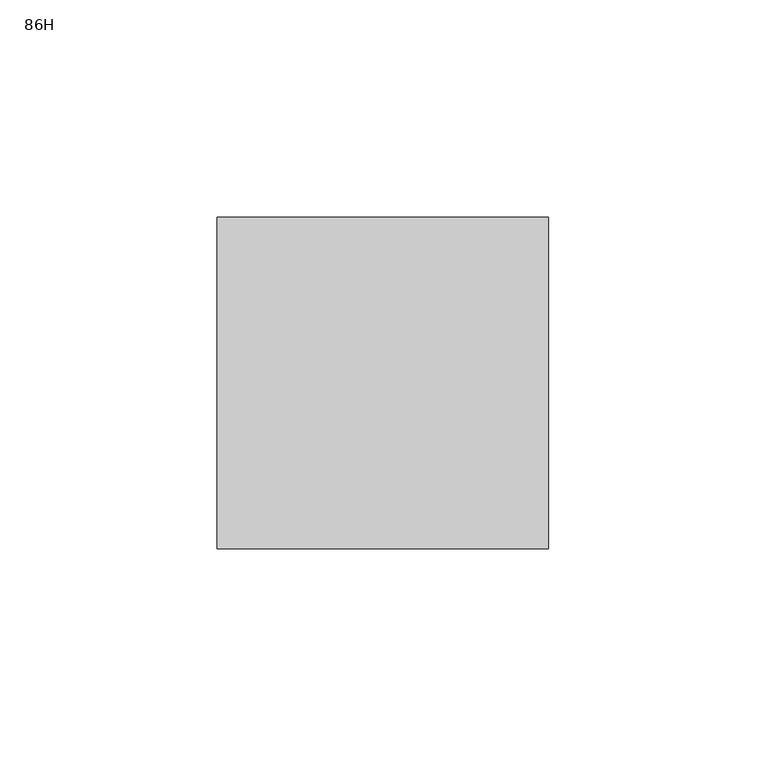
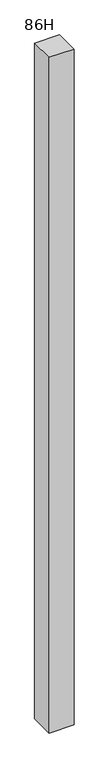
"""IFC4 building model written with IfcOpenShell, lengths in millimetres: furniture geometry, Steelcase - Montage - Junction - L Square - Same-Height : 86H."""

import ifcopenshell
import ifcopenshell.guid

model = None  # the IFC model being written
_history = None  # IfcOwnerHistory: only IFC2X3 demands one
_inside = {}  # id of a spatial element -> (the spatial element, [elements in it])
_under = {}  # id of a project, library or spatial element -> (it, [spatial elements below it])
_declared = {}  # id of a project -> (the project, [libraries it declares])
_typed = {}  # id of a type object -> (the type object, [elements of that type])
_made_of = {}  # id of a material, layer set ... -> (it, [elements and type objects made of it])


def new_model(schema):
    """Start an empty IFC model of exactly this schema.

    Asked for "IFC4X3", IfcOpenShell would pick the latest addendum, in which some entities
    have other attributes; the version numbers below select the first issue.
    IFC2X3 requires an IfcOwnerHistory on every rooted entity: one is made here for all.
    """
    global model, _history
    if schema == "IFC4X3":
        model = ifcopenshell.file(schema_version=(4, 3, 0, 0))
    else:
        model = ifcopenshell.file(schema=schema)
    _inside.clear()
    _under.clear()
    _declared.clear()
    _typed.clear()
    _made_of.clear()
    _history = None
    if model.schema == "IFC2X3":
        org = make("IfcOrganization", Name="unknown")
        user = make(
            "IfcPersonAndOrganization",
            ThePerson=make("IfcPerson", FamilyName="unknown"),
            TheOrganization=org,
        )
        app = make(
            "IfcApplication",
            ApplicationDeveloper=org,
            Version="unknown",
            ApplicationFullName="unknown",
            ApplicationIdentifier="unknown",
        )
        _history = make(
            "IfcOwnerHistory",
            OwningUser=user,
            OwningApplication=app,
            ChangeAction="ADDED",
            CreationDate=0,
        )
    return model


def make(cls, **values):
    """One entity of the class cls with the attributes given. An attribute that is None is left unset."""
    return model.create_entity(
        cls, **{name: value for name, value in values.items() if value is not None}
    )


def rooted(cls, **values):
    """An entity with a GlobalId (a new one), such as an element, a storey or a relation."""
    return make(cls, GlobalId=ifcopenshell.guid.new(), OwnerHistory=_history, **values)


def si_unit(unit_type, name, prefix=None):
    """IfcSIUnit, for example si_unit("LENGTHUNIT", "METRE", prefix="MILLI")."""
    return make("IfcSIUnit", UnitType=unit_type, Prefix=prefix, Name=name)


def assignment(units):
    """IfcUnitAssignment: the units of a project."""
    return None if units is None else make("IfcUnitAssignment", Units=units)


def point(xyz):
    """IfcCartesianPoint."""
    return None if xyz is None else make("IfcCartesianPoint", Coordinates=xyz)


def direction(xyz):
    """IfcDirection."""
    return None if xyz is None else make("IfcDirection", DirectionRatios=xyz)


def frame(location, z_axis=None, x_axis=None):
    """IfcAxis2Placement3D, a coordinate frame: its origin and axes. An axis left out is left unset."""
    return make(
        "IfcAxis2Placement3D",
        Location=point(location),
        Axis=direction(z_axis),
        RefDirection=direction(x_axis),
    )


def origin():
    """The frame at (0, 0, 0) with its axes left unset."""
    return frame((0.0, 0.0, 0.0))


def place(relative_to, where):
    """IfcLocalPlacement: puts the frame where relative to a parent placement (None: the world)."""
    return make(
        "IfcLocalPlacement", PlacementRelTo=relative_to, RelativePlacement=where
    )


def context(
    kind, dimensions, precision=None, world=None, true_north=None, identifier=None
):
    """IfcGeometricRepresentationContext, for example the 3D "Model" context."""
    return make(
        "IfcGeometricRepresentationContext",
        ContextIdentifier=identifier,
        ContextType=kind,
        CoordinateSpaceDimension=dimensions,
        Precision=precision,
        WorldCoordinateSystem=world,
        TrueNorth=true_north,
    )


def project(units=None, contexts=None):
    """IfcProject with its units and contexts."""
    return rooted(
        "IfcProject",
        Name="project",
        RepresentationContexts=contexts,
        UnitsInContext=assignment(units),
    )


def spatial(cls, under=None, at=None, **own):
    """A site, building, storey or space (cls), placed at a placement, below another one or the project."""
    s = rooted(cls, ObjectPlacement=at, **own)
    if under is not None:
        _under.setdefault(under.id(), (under, []))[1].append(s)
    return s


def polyline(points):
    """IfcPolyline through the points."""
    return make("IfcPolyline", Points=[point(p) for p in points])


def outline(outer, holes=None, kind="AREA"):
    """IfcArbitraryClosedProfileDef: a profile drawn as a closed curve; with holes, ...WithVoids."""
    if holes is None:
        return make("IfcArbitraryClosedProfileDef", ProfileType=kind, OuterCurve=outer)
    return make(
        "IfcArbitraryProfileDefWithVoids",
        ProfileType=kind,
        OuterCurve=outer,
        InnerCurves=holes,
    )


def extrude(swept, where, along, depth):
    """IfcExtrudedAreaSolid: the profile swept, set in the frame where, extruded along a direction by depth."""
    return make(
        "IfcExtrudedAreaSolid",
        SweptArea=swept,
        Position=where,
        ExtrudedDirection=direction(along),
        Depth=depth,
    )


def shape(context_of_items, identifier, shape_type, items):
    """IfcShapeRepresentation: the items that make up one representation, for example the "Body"."""
    return make(
        "IfcShapeRepresentation",
        ContextOfItems=context_of_items,
        RepresentationIdentifier=identifier,
        RepresentationType=shape_type,
        Items=items,
    )


def source(mapping_origin, context_of_items, identifier, shape_type, items):
    """IfcRepresentationMap: a shape defined once, which mapped items show again and again."""
    return make(
        "IfcRepresentationMap",
        MappingOrigin=mapping_origin,
        MappedRepresentation=shape(context_of_items, identifier, shape_type, items),
    )


def transform(
    local_origin,
    x_axis=None,
    y_axis=None,
    z_axis=None,
    scale=None,
    scale2=None,
    scale3=None,
    uniform=True,
):
    """IfcCartesianTransformationOperator3D, or its non-uniform kind. x_axis, y_axis, z_axis: its Axis1, 2, 3."""
    if uniform:
        return make(
            "IfcCartesianTransformationOperator3D",
            Axis1=direction(x_axis),
            Axis2=direction(y_axis),
            LocalOrigin=point(local_origin),
            Scale=scale,
            Axis3=direction(z_axis),
        )
    return make(
        "IfcCartesianTransformationOperator3DnonUniform",
        Axis1=direction(x_axis),
        Axis2=direction(y_axis),
        LocalOrigin=point(local_origin),
        Scale=scale,
        Axis3=direction(z_axis),
        Scale2=scale2,
        Scale3=scale3,
    )


def mapped(mapping_source, mapping_target):
    """IfcMappedItem: shows the shape of a source again, moved by a transform."""
    return make(
        "IfcMappedItem", MappingSource=mapping_source, MappingTarget=mapping_target
    )


def made_of(thing, what):
    """Note that an element or type object is made of a material, layer set ...; save() writes the relation."""
    if what is not None:
        _made_of.setdefault(what.id(), (what, []))[1].append(thing)
    return thing


def element(
    cls,
    number,
    at=None,
    inside=None,
    cuts=None,
    type_object=None,
    material=None,
    context=None,
    identifier="Body",
    shape_type=None,
    held_by="IfcProductDefinitionShape",
    body=None,
    shapes=None,
    **own,
):
    """One element of the class cls, such as IfcWall. Its Tag is "e" and its number.

    at: its placement. inside: the storey or other place that contains it. cuts: it is an
    opening in that element (IfcRelVoidsElement). A single representation is given by context,
    identifier, shape_type and body (its items); several are given by shapes. held_by: the class
    of the entity that holds the representations. save() writes the other relations.
    """
    e = rooted(cls, Tag="e%d" % number, ObjectPlacement=at, **own)
    if body is not None:
        shapes = [shape(context, identifier, shape_type, body)]
    if shapes is not None:
        e.Representation = make(held_by, Representations=shapes)
    if inside is not None:
        _inside.setdefault(inside.id(), (inside, []))[1].append(e)
    if cuts is not None:
        rooted(
            "IfcRelVoidsElement", RelatingBuildingElement=cuts, RelatedOpeningElement=e
        )
    if type_object is not None:
        _typed.setdefault(type_object.id(), (type_object, []))[1].append(e)
    return made_of(e, material)


def aggregate(whole, parts):
    """IfcRelAggregates: a whole, such as a stair, and the parts it consists of."""
    return rooted("IfcRelAggregates", RelatingObject=whole, RelatedObjects=parts)


def save(model, path):
    """Write the relations noted so far, then the file.

    IfcRelAggregates (storeys below a building ...), IfcRelContainedInSpatialStructure (elements
    in a storey), IfcRelDefinesByType, IfcRelAssociatesMaterial and IfcRelDeclares: one each for
    every whole, place, type object, material and project.
    """
    for whole, parts in _under.values():
        aggregate(whole, parts)
    for where, things in _inside.values():
        rooted(
            "IfcRelContainedInSpatialStructure",
            RelatedElements=things,
            RelatingStructure=where,
        )
    for kind, things in _typed.values():
        rooted("IfcRelDefinesByType", RelatedObjects=things, RelatingType=kind)
    for what, things in _made_of.values():
        rooted("IfcRelAssociatesMaterial", RelatedObjects=things, RelatingMaterial=what)
    for by, libraries in _declared.values():
        rooted("IfcRelDeclares", RelatingContext=by, RelatedDefinitions=libraries)
    model.write(path)


def furniture_86h_5dbdb53e(model_context):
    return source(origin(), model_context, "Body", "SweptSolid", [
        extrude(outline(polyline([(533.4, -38.1000015), (457.2, -38.1000015), (457.2, 38.1000015), (533.4, 38.1000015), (533.4, -38.1000015)])), frame((0.0, 0.0, 4.064), z_axis=(0.0, 0.0, 1.0), x_axis=(1.0, 0.0, 0.0)), (0.0, 0.0, 1.0), 2180.336),
    ])


if __name__ == "__main__":
    model = new_model("IFC4")
    model_context = context("Model", 3, world=origin())
    ifc_project = project(units=[si_unit("LENGTHUNIT", "METRE", prefix="MILLI")], contexts=[model_context])
    site = spatial("IfcSite", under=ifc_project)
    building = spatial("IfcBuilding", under=site)
    placement = place(None, origin())
    furniture_86h_shape = furniture_86h_5dbdb53e(model_context)
    element("IfcFurniture", 1, ObjectType="Steelcase - Montage - Junction - L Square - Same-Height : 86H", at=placement, inside=building, context=model_context, shape_type="MappedRepresentation", body=[
        mapped(furniture_86h_shape, transform((0.0, 0.0, 0.0), x_axis=(1.0, 0.0, 0.0), y_axis=(0.0, 1.0, 0.0), z_axis=(0.0, 0.0, 1.0))),
    ])
    save(model, "model.ifc")
